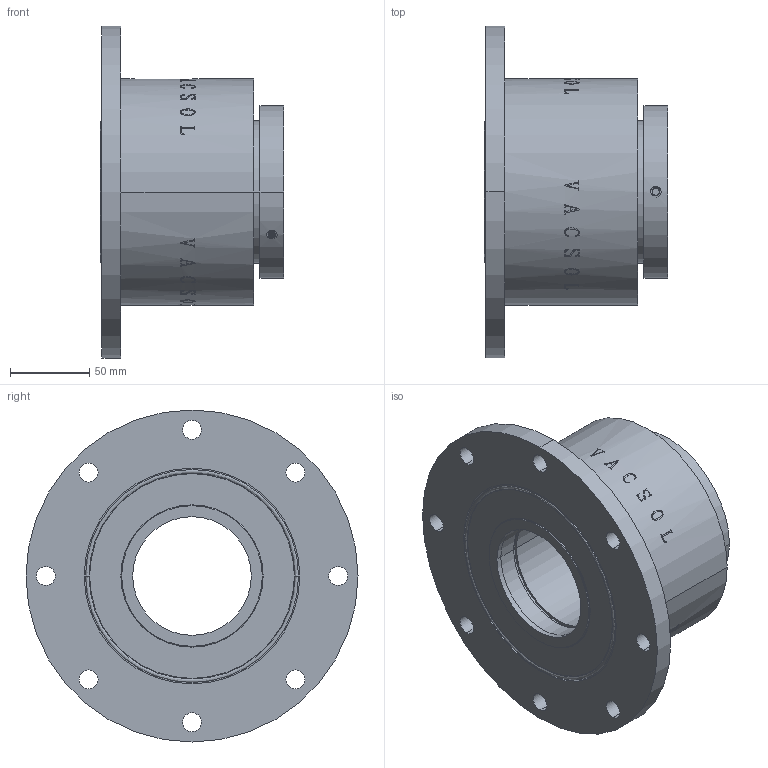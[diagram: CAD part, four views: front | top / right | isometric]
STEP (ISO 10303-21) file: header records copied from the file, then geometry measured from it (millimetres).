
FILE_DESCRIPTION (( 'STEP AP203' ), '1' );
FILE_NAME ('14750.STEP', '2022-03-21T02:51:42', ( '' ), ( '' ), 'SwSTEP 2.0', 'SolidWorks 2016', '' );
FILE_SCHEMA (( 'CONFIG_CONTROL_DESIGN' ));
Length unit declared in the file: millimetre
Products named in the file (1): 14750
Bounding box: 116 x 210 x 210 mm (x, y, z)
Volume: 1407079.7 mm3; surface area: 171933.1 mm2
Topology: 3 solids, 3 shells, 408 faces, 1147 edges, 780 vertices
Faces by surface type: bspline 161, cylinder 123, plane 122, cone 2
Entity records: 52951 total; most frequent: CARTESIAN_POINT 43970, ORIENTED_EDGE 2294, DIRECTION 1177, EDGE_CURVE 1147, VERTEX_POINT 780, EDGE_LOOP 465, B_SPLINE_CURVE_WITH_KNOTS 442, FACE_OUTER_BOUND 408
